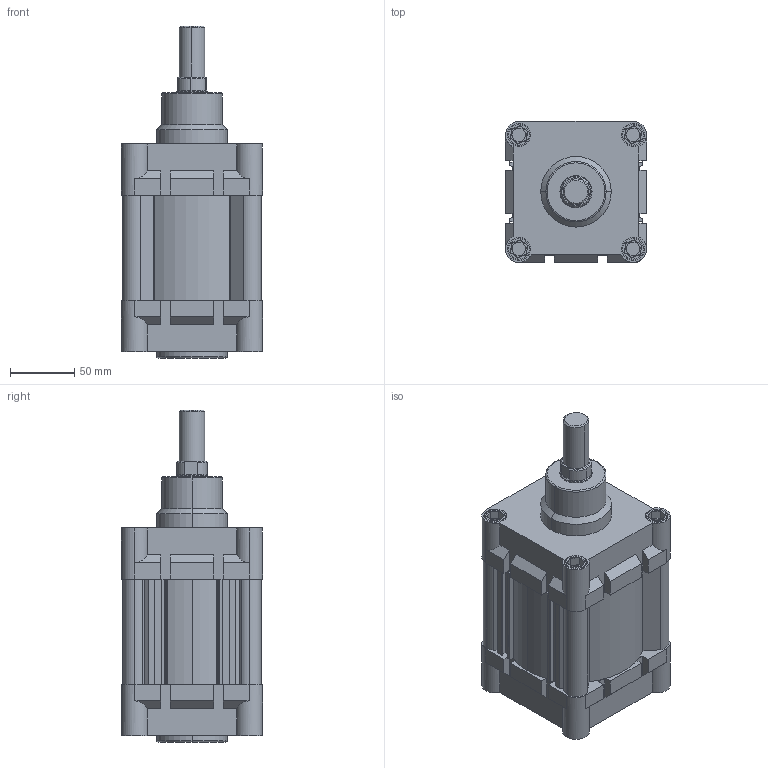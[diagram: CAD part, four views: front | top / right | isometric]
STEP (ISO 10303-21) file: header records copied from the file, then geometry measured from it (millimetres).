
FILE_DESCRIPTION (( 'STEP AP214' ), '1' );
FILE_NAME ('RIC100_25_MY_WEB.STEP', '2020-09-10T17:44:39', ( '' ), ( '' ), 'SwSTEP 2.0', 'SolidWorks 2018', '' );
FILE_SCHEMA (( 'AUTOMOTIVE_DESIGN' ));
Length unit declared in the file: millimetre
Products named in the file (6): M12 KAPAK CÝVATASI; RIC_100_BORU_WEB; rýc100arkakapak; RIC100_25_MY_WEB; 25_K_MIL_WEB; RIC_100_ON_KAPAK_WEB
Assembly tree (12 placements, depth 2):
  RIC100_25_MY_WEB
    RIC_100_ON_KAPAK_WEB
    RIC_100_BORU_WEB
    rýc100arkakapak
    M12 KAPAK CÝVATASI  x8
    25_K_MIL_WEB
Bounding box: 110 x 110 x 259 mm (x, y, z)
Volume: 1216590.7 mm3; surface area: 247099.6 mm2
Topology: 12 solids, 12 shells, 717 faces, 1793 edges, 1155 vertices
Faces by surface type: plane 362, cylinder 209, bspline 81, cone 59, torus 6
Entity records: 22464 total; most frequent: CARTESIAN_POINT 7800, ORIENTED_EDGE 2746, DIRECTION 2408, EDGE_CURVE 1373, VERTEX_POINT 903, LINE 826, VECTOR 826, AXIS2_PLACEMENT_3D 791
